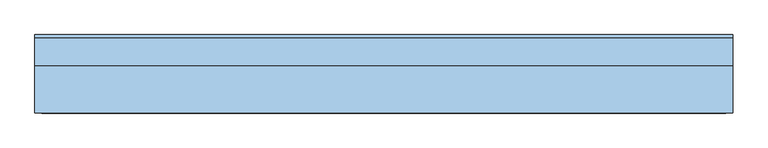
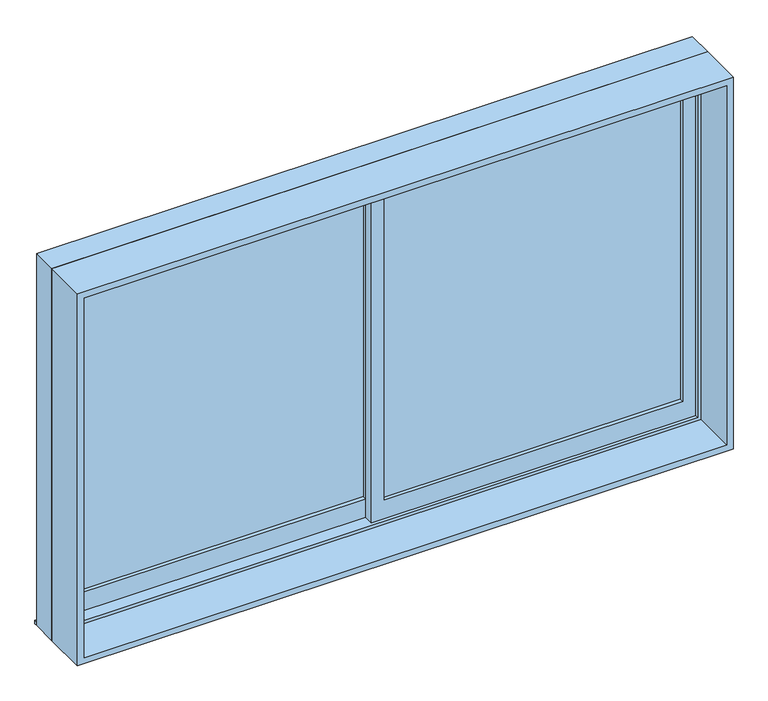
"""IFC4 building model written with IfcOpenShell, lengths in millimetres: window geometry, 窓-引違2枚-内付 : AW-4' w2000 h1200."""

from ifc_helpers import new_model, si_unit, frame, origin, place, context, project, spatial, polyline, outline, extrude, source, transform, mapped, element, save


def window_a7724039(model_context):
    return source(origin(), model_context, "Body", "SweptSolid", [
        extrude(outline(polyline([(600.0, 1000.0), (1800.0, 1000.0), (1800.0, -1000.0), (600.0, -1000.0), (600.0, 1000.0)]), holes=[polyline([(620.0, 980.0), (620.0, -980.0), (1780.0, -980.0), (1780.0, 980.0), (620.0, 980.0)])]), frame((0.0, -115.0, 0.0), z_axis=(0.0, 1.0, 0.0), x_axis=(0.0, 0.0, 1.0)), (0.0, 0.0, 1.0), 135.0),
        extrude(outline(polyline([(600.0, -1000.0), (600.0, 1000.0), (1800.0, 1000.0), (1800.0, -1000.0), (600.0, -1000.0)]), holes=[polyline([(630.0, -970.0), (1770.0, -970.0), (1770.0, 970.0), (630.0, 970.0), (630.0, -970.0)])]), frame((0.0, 20.0, 0.0), z_axis=(0.0, 1.0, 0.0), x_axis=(0.0, 0.0, 1.0)), (0.0, 0.0, 1.0), 80.0),
        extrude(outline(polyline([(930.0, 42.5), (20.0, 42.5), (20.0, 47.5), (930.0, 47.5), (930.0, 42.5)])), frame((0.0, 0.0, 690.0), z_axis=(0.0, 0.0, 1.0), x_axis=(1.0, 0.0, 0.0)), (0.0, 0.0, 1.0), 1040.0),
        extrude(outline(polyline([(1770.0, -20.0), (630.0, -20.0), (630.0, 970.0), (1770.0, 970.0), (1770.0, -20.0)]), holes=[polyline([(1730.0, 20.0), (1730.0, 930.0), (690.0, 930.0), (690.0, 20.0), (1730.0, 20.0)])]), frame((0.0, 30.0, 0.0), z_axis=(0.0, 1.0, 0.0), x_axis=(0.0, 0.0, 1.0)), (0.0, 0.0, 1.0), 30.0),
        extrude(outline(polyline([(-20.0, 72.5), (-930.0, 72.5), (-930.0, 77.5), (-20.0, 77.5), (-20.0, 72.5)])), frame((0.0, 0.0, 690.0), z_axis=(0.0, 0.0, 1.0), x_axis=(1.0, 0.0, 0.0)), (0.0, 0.0, 1.0), 1040.0),
        extrude(outline(polyline([(630.0, -970.0), (630.0, 20.0), (1770.0, 20.0), (1770.0, -970.0), (630.0, -970.0)]), holes=[polyline([(690.0, -930.0), (1730.0, -930.0), (1730.0, -20.0), (690.0, -20.0), (690.0, -930.0)])]), frame((0.0, 60.0, 0.0), z_axis=(0.0, 1.0, 0.0), x_axis=(0.0, 0.0, 1.0)), (0.0, 0.0, 1.0), 30.0),
        extrude(outline(polyline([(1000.0, 110.0), (1000.0, 100.0), (-1000.0, 100.0), (-1000.0, 110.0), (1000.0, 110.0)])), frame((0.0, 0.0, 600.0), z_axis=(0.0, 0.0, 1.0), x_axis=(1.0, 0.0, 0.0)), (0.0, 0.0, 1.0), 10.0),
    ])


if __name__ == "__main__":
    model = new_model("IFC4")
    model_context = context("Model", 3, world=origin())
    ifc_project = project(units=[si_unit("LENGTHUNIT", "METRE", prefix="MILLI")], contexts=[model_context])
    site = spatial("IfcSite", under=ifc_project)
    building = spatial("IfcBuilding", under=site)
    placement = place(None, origin())
    window_shape = window_a7724039(model_context)
    element("IfcWindow", 1, ObjectType="窓-引違2枚-内付 : AW-4' w2000 h1200", at=placement, inside=building, context=model_context, shape_type="MappedRepresentation", body=[
        mapped(window_shape, transform((0.0, 0.0, 0.0), x_axis=(1.0, 0.0, 0.0), y_axis=(0.0, 1.0, 0.0), z_axis=(0.0, 0.0, 1.0))),
    ])
    save(model, "model.ifc")
